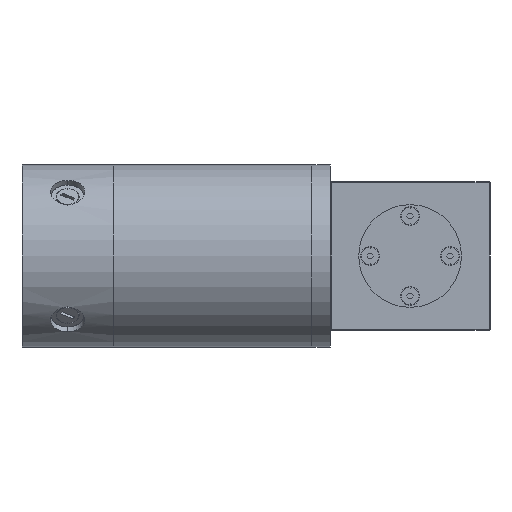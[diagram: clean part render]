
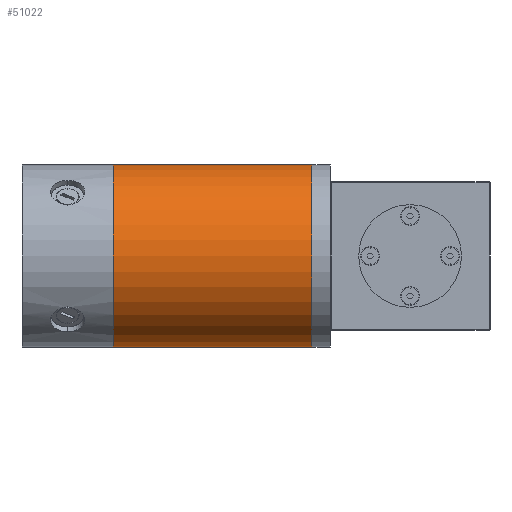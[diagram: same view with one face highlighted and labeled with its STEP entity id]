
A CAD part, left-side view. The second image highlights one B-rep face of the part: STEP entity #51022.
In plain terms, the highlighted cylindrical face has radius 50.8 mm (diameter 101.6 mm), a partial arc.
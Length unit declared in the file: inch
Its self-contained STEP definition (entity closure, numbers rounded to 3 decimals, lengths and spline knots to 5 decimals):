
#468 = EDGE_CURVE ( 'NONE', #41272, #56708, #52357, .T. ) ;
#3466 = DIRECTION ( 'NONE',  ( 0., -1., 0. ) ) ;
#5624 = AXIS2_PLACEMENT_3D ( 'NONE', #21667, #3466, #53180 ) ;
#7150 = DIRECTION ( 'NONE',  ( 0., -1., 0. ) ) ;
#7383 = CARTESIAN_POINT ( 'NONE',  ( 7.41726, 8.61131, 0.88268 ) ) ;
#9527 = DIRECTION ( 'NONE',  ( 0., 0., -1. ) ) ;
#11241 = CARTESIAN_POINT ( 'NONE',  ( 7.41726, 4.26131, 4.88268 ) ) ;
#12457 = ORIENTED_EDGE ( 'NONE', *, *, #23645, .F. ) ;
#12523 = CYLINDRICAL_SURFACE ( 'NONE', #30970, 2. ) ;
#12984 = CARTESIAN_POINT ( 'NONE',  ( 7.41726, 14.26817, 2.88268 ) ) ;
#17457 = FACE_OUTER_BOUND ( 'NONE', #43672, .T. ) ;
#18541 = EDGE_CURVE ( 'NONE', #56708, #57370, #51501, .T. ) ;
#18655 = VECTOR ( 'NONE', #19074, 39.37008 ) ;
#19074 = DIRECTION ( 'NONE',  ( 0., -1., 0. ) ) ;
#21667 = CARTESIAN_POINT ( 'NONE',  ( 7.41726, 8.61131, 2.88268 ) ) ;
#21841 = VERTEX_POINT ( 'NONE', #11241 ) ;
#23645 = EDGE_CURVE ( 'NONE', #41272, #21841, #29243, .T. ) ;
#23997 = ORIENTED_EDGE ( 'NONE', *, *, #29022, .T. ) ;
#24289 = CARTESIAN_POINT ( 'NONE',  ( 7.41726, 8.61131, 4.88268 ) ) ;
#29022 = EDGE_CURVE ( 'NONE', #57370, #21841, #43284, .T. ) ;
#29243 = LINE ( 'NONE', #41518, #18655 ) ;
#30970 = AXIS2_PLACEMENT_3D ( 'NONE', #12984, #40189, #44522 ) ;
#32377 = CARTESIAN_POINT ( 'NONE',  ( 7.41726, 4.26131, 2.88268 ) ) ;
#32859 = ORIENTED_EDGE ( 'NONE', *, *, #18541, .T. ) ;
#33159 = AXIS2_PLACEMENT_3D ( 'NONE', #32377, #45937, #9527 ) ;
#40189 = DIRECTION ( 'NONE',  ( 0., -1., 0. ) ) ;
#41272 = VERTEX_POINT ( 'NONE', #24289 ) ;
#41518 = CARTESIAN_POINT ( 'NONE',  ( 7.41726, 14.26817, 4.88268 ) ) ;
#43284 = CIRCLE ( 'NONE', #33159, 2. ) ;
#43672 = EDGE_LOOP ( 'NONE', ( #57399, #32859, #23997, #12457 ) ) ;
#44308 = CARTESIAN_POINT ( 'NONE',  ( 7.41726, 4.26131, 0.88268 ) ) ;
#44522 = DIRECTION ( 'NONE',  ( 0., 0., 1. ) ) ;
#45937 = DIRECTION ( 'NONE',  ( 0., 1., 0. ) ) ;
#51022 = ADVANCED_FACE ( 'NONE', ( #17457 ), #12523, .T. ) ;
#51501 = LINE ( 'NONE', #56638, #57872 ) ;
#52357 = CIRCLE ( 'NONE', #5624, 2. ) ;
#53180 = DIRECTION ( 'NONE',  ( 0., 0., 1. ) ) ;
#56638 = CARTESIAN_POINT ( 'NONE',  ( 7.41726, 14.26817, 0.88268 ) ) ;
#56708 = VERTEX_POINT ( 'NONE', #7383 ) ;
#57370 = VERTEX_POINT ( 'NONE', #44308 ) ;
#57399 = ORIENTED_EDGE ( 'NONE', *, *, #468, .T. ) ;
#57872 = VECTOR ( 'NONE', #7150, 39.37008 ) ;
